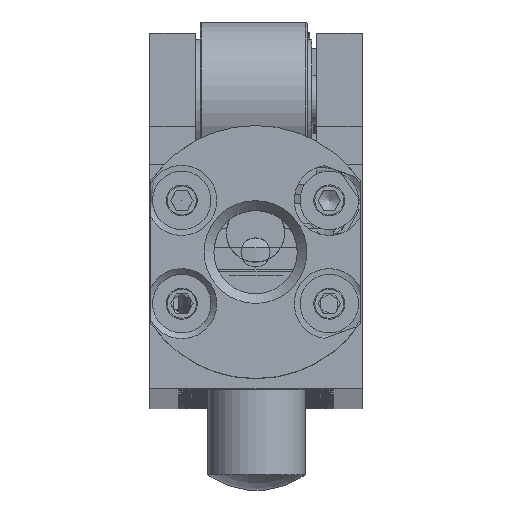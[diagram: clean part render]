
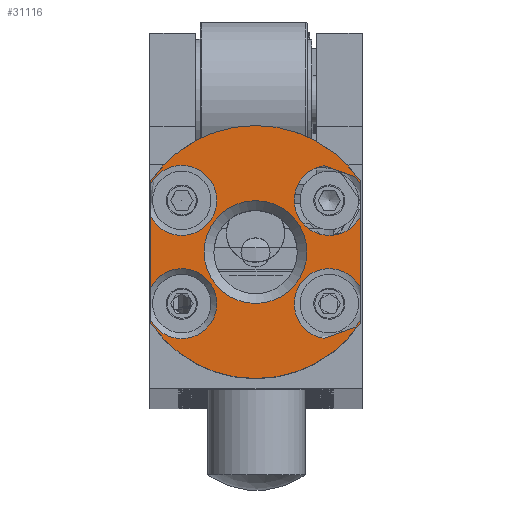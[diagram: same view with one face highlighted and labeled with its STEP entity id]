
A CAD part, top view. The second image highlights one B-rep face of the part: STEP entity #31116.
In plain terms, the highlighted planar face has unit normal (0, 0, 1).
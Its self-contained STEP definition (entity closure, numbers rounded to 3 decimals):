
#931=FACE_BOUND('',#6643,.T.);
#1325=PLANE('',#33622);
#1864=LINE('',#50170,#3062);
#1865=LINE('',#50173,#3063);
#1866=LINE('',#50177,#3064);
#1867=LINE('',#50181,#3065);
#1868=LINE('',#50185,#3066);
#1869=LINE('',#50189,#3067);
#1870=LINE('',#50193,#3068);
#1871=LINE('',#50196,#3069);
#3062=VECTOR('',#39727,10.);
#3063=VECTOR('',#39730,10.);
#3064=VECTOR('',#39733,10.);
#3065=VECTOR('',#39736,10.);
#3066=VECTOR('',#39739,10.);
#3067=VECTOR('',#39742,10.);
#3068=VECTOR('',#39745,10.);
#3069=VECTOR('',#39748,10.);
#4965=FACE_OUTER_BOUND('',#6642,.T.);
#6642=EDGE_LOOP('',(#21577,#21578,#21579,#21580,#21581,#21582,#21583,#21584,
#21585,#21586,#21587,#21588,#21589,#21590,#21591,#21592));
#6643=EDGE_LOOP('',(#21593));
#9081=CIRCLE('',#33615,3.6);
#9084=CIRCLE('',#33618,3.6);
#9086=CIRCLE('',#33623,3.6);
#9087=CIRCLE('',#33624,3.6);
#9088=CIRCLE('',#33625,13.);
#9089=CIRCLE('',#33626,3.6);
#9090=CIRCLE('',#33627,3.6);
#9091=CIRCLE('',#33628,13.);
#9092=CIRCLE('',#33629,5.283);
#12146=VERTEX_POINT('',#50144);
#12147=VERTEX_POINT('',#50145);
#12148=VERTEX_POINT('',#50149);
#12152=VERTEX_POINT('',#50160);
#12154=VERTEX_POINT('',#50172);
#12155=VERTEX_POINT('',#50174);
#12156=VERTEX_POINT('',#50176);
#12157=VERTEX_POINT('',#50178);
#12158=VERTEX_POINT('',#50180);
#12159=VERTEX_POINT('',#50182);
#12160=VERTEX_POINT('',#50184);
#12161=VERTEX_POINT('',#50186);
#12162=VERTEX_POINT('',#50188);
#12163=VERTEX_POINT('',#50190);
#12164=VERTEX_POINT('',#50192);
#12165=VERTEX_POINT('',#50194);
#12166=VERTEX_POINT('',#50197);
#15767=EDGE_CURVE('',#12148,#12146,#9081,.T.);
#15773=EDGE_CURVE('',#12147,#12152,#9084,.T.);
#15776=EDGE_CURVE('',#12152,#12148,#1864,.T.);
#15777=EDGE_CURVE('',#12146,#12154,#1865,.T.);
#15778=EDGE_CURVE('',#12154,#12155,#9086,.T.);
#15779=EDGE_CURVE('',#12155,#12156,#1866,.T.);
#15780=EDGE_CURVE('',#12156,#12157,#9087,.T.);
#15781=EDGE_CURVE('',#12157,#12158,#1867,.T.);
#15782=EDGE_CURVE('',#12159,#12158,#9088,.T.);
#15783=EDGE_CURVE('',#12159,#12160,#1868,.T.);
#15784=EDGE_CURVE('',#12160,#12161,#9089,.T.);
#15785=EDGE_CURVE('',#12161,#12162,#1869,.T.);
#15786=EDGE_CURVE('',#12162,#12163,#9090,.T.);
#15787=EDGE_CURVE('',#12163,#12164,#1870,.T.);
#15788=EDGE_CURVE('',#12165,#12164,#9091,.T.);
#15789=EDGE_CURVE('',#12165,#12147,#1871,.T.);
#15790=EDGE_CURVE('',#12166,#12166,#9092,.T.);
#21577=ORIENTED_EDGE('',*,*,#15773,.T.);
#21578=ORIENTED_EDGE('',*,*,#15776,.T.);
#21579=ORIENTED_EDGE('',*,*,#15767,.T.);
#21580=ORIENTED_EDGE('',*,*,#15777,.T.);
#21581=ORIENTED_EDGE('',*,*,#15778,.T.);
#21582=ORIENTED_EDGE('',*,*,#15779,.T.);
#21583=ORIENTED_EDGE('',*,*,#15780,.T.);
#21584=ORIENTED_EDGE('',*,*,#15781,.T.);
#21585=ORIENTED_EDGE('',*,*,#15782,.F.);
#21586=ORIENTED_EDGE('',*,*,#15783,.T.);
#21587=ORIENTED_EDGE('',*,*,#15784,.T.);
#21588=ORIENTED_EDGE('',*,*,#15785,.T.);
#21589=ORIENTED_EDGE('',*,*,#15786,.T.);
#21590=ORIENTED_EDGE('',*,*,#15787,.T.);
#21591=ORIENTED_EDGE('',*,*,#15788,.F.);
#21592=ORIENTED_EDGE('',*,*,#15789,.T.);
#21593=ORIENTED_EDGE('',*,*,#15790,.F.);
#31116=ADVANCED_FACE('',(#4965,#931),#1325,.T.);
#33615=AXIS2_PLACEMENT_3D('',#50150,#39711,#39712);
#33618=AXIS2_PLACEMENT_3D('',#50164,#39718,#39719);
#33622=AXIS2_PLACEMENT_3D('',#50171,#39728,#39729);
#33623=AXIS2_PLACEMENT_3D('',#50175,#39731,#39732);
#33624=AXIS2_PLACEMENT_3D('',#50179,#39734,#39735);
#33625=AXIS2_PLACEMENT_3D('',#50183,#39737,#39738);
#33626=AXIS2_PLACEMENT_3D('',#50187,#39740,#39741);
#33627=AXIS2_PLACEMENT_3D('',#50191,#39743,#39744);
#33628=AXIS2_PLACEMENT_3D('',#50195,#39746,#39747);
#33629=AXIS2_PLACEMENT_3D('',#50198,#39749,#39750);
#39711=DIRECTION('center_axis',(0.,0.,-1.));
#39712=DIRECTION('ref_axis',(-0.342,0.94,0.));
#39718=DIRECTION('center_axis',(0.,0.,-1.));
#39719=DIRECTION('ref_axis',(-0.342,0.94,0.));
#39727=DIRECTION('',(-0.94,-0.342,0.));
#39728=DIRECTION('center_axis',(0.,0.,1.));
#39729=DIRECTION('ref_axis',(1.,0.,0.));
#39730=DIRECTION('',(0.,1.,0.));
#39731=DIRECTION('center_axis',(0.,0.,-1.));
#39732=DIRECTION('ref_axis',(-0.342,-0.94,0.));
#39733=DIRECTION('',(0.94,-0.342,0.));
#39734=DIRECTION('center_axis',(0.,0.,-1.));
#39735=DIRECTION('ref_axis',(-0.342,-0.94,0.));
#39736=DIRECTION('',(0.,1.,0.));
#39737=DIRECTION('center_axis',(0.,0.,-1.));
#39738=DIRECTION('ref_axis',(0.,1.,0.));
#39739=DIRECTION('',(0.,-1.,0.));
#39740=DIRECTION('center_axis',(0.,0.,-1.));
#39741=DIRECTION('ref_axis',(1.,0.,0.));
#39742=DIRECTION('',(0.,-1.,0.));
#39743=DIRECTION('center_axis',(0.,0.,-1.));
#39744=DIRECTION('ref_axis',(1.,0.,0.));
#39745=DIRECTION('',(0.,-1.,0.));
#39746=DIRECTION('center_axis',(0.,0.,-1.));
#39747=DIRECTION('ref_axis',(0.,1.,0.));
#39748=DIRECTION('',(0.,1.,0.));
#39749=DIRECTION('center_axis',(0.,0.,1.));
#39750=DIRECTION('ref_axis',(-1.,0.,0.));
#50144=CARTESIAN_POINT('',(10.7,-7.855,916.));
#50145=CARTESIAN_POINT('',(10.7,-11.256,916.));
#50149=CARTESIAN_POINT('',(7.014,-13.119,916.));
#50150=CARTESIAN_POINT('Origin',(7.527,-9.556,916.));
#50160=CARTESIAN_POINT('',(10.211,-11.955,916.));
#50164=CARTESIAN_POINT('Origin',(7.527,-9.556,916.));
#50170=CARTESIAN_POINT('',(8.106,-12.721,916.));
#50171=CARTESIAN_POINT('Origin',(-0.05,2.25,916.));
#50172=CARTESIAN_POINT('',(10.7,-0.645,916.));
#50173=CARTESIAN_POINT('',(10.7,-4.655,916.));
#50174=CARTESIAN_POINT('',(7.014,4.619,916.));
#50175=CARTESIAN_POINT('Origin',(7.527,1.056,916.));
#50176=CARTESIAN_POINT('',(10.211,3.455,916.));
#50177=CARTESIAN_POINT('',(6.017,4.982,916.));
#50178=CARTESIAN_POINT('',(10.7,2.756,916.));
#50179=CARTESIAN_POINT('Origin',(7.527,1.056,916.));
#50180=CARTESIAN_POINT('',(10.7,3.06,916.));
#50181=CARTESIAN_POINT('',(10.7,-4.655,916.));
#50182=CARTESIAN_POINT('',(-10.8,3.06,916.));
#50183=CARTESIAN_POINT('Origin',(-0.05,-4.25,916.));
#50184=CARTESIAN_POINT('',(-10.8,2.756,916.));
#50185=CARTESIAN_POINT('',(-10.8,2.655,916.));
#50186=CARTESIAN_POINT('',(-10.8,-0.645,916.));
#50187=CARTESIAN_POINT('Origin',(-7.627,1.056,916.));
#50188=CARTESIAN_POINT('',(-10.8,-7.855,916.));
#50189=CARTESIAN_POINT('',(-10.8,2.655,916.));
#50190=CARTESIAN_POINT('',(-10.8,-11.256,916.));
#50191=CARTESIAN_POINT('Origin',(-7.627,-9.556,916.));
#50192=CARTESIAN_POINT('',(-10.8,-11.56,916.));
#50193=CARTESIAN_POINT('',(-10.8,2.655,916.));
#50194=CARTESIAN_POINT('',(10.7,-11.56,916.));
#50195=CARTESIAN_POINT('Origin',(-0.05,-4.25,916.));
#50196=CARTESIAN_POINT('',(10.7,-4.655,916.));
#50197=CARTESIAN_POINT('',(5.233,-4.25,916.));
#50198=CARTESIAN_POINT('Origin',(-0.05,-4.25,916.));
